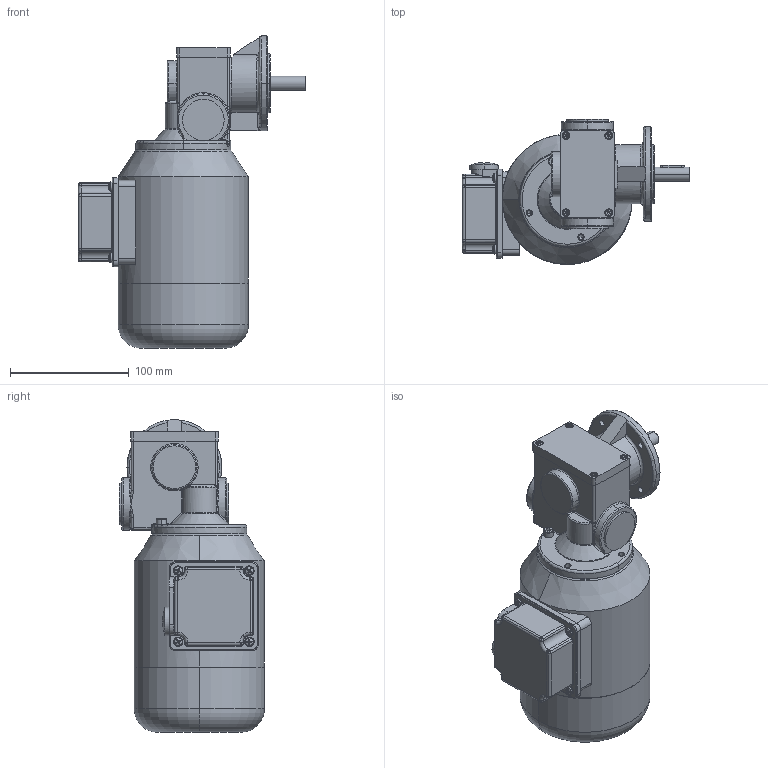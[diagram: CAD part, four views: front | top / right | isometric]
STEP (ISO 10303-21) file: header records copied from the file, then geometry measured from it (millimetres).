
FILE_DESCRIPTION (( 'STEP AP214' ), '1' );
FILE_NAME ('SN6F_120W_2800Upm_Drehstrom-Motor_D.STEP', '2021-08-10T08:49:14', ( '' ), ( '' ), 'SwSTEP 2.0', 'SolidWorks 2019', '' );
FILE_SCHEMA (( 'AUTOMOTIVE_DESIGN' ));
Length unit declared in the file: millimetre
Products named in the file (11): socket head cap screw_din_DIN 912 M5 x 16 --- 16C; 06F-G-002_3D-Export; 06F-D-003_3D-Export; SN6F_120W_2800Upm_Drehstrom-Motor_D; 06-S-002; socket head cap screw_din_DIN 912 M3 x 10 --- 10C; NBR_WDR_12x32x7; SN6F_3D-Export_alte Verschlusskappe 06-S-002; PF_A4x4x20; 06F-W-003_3D-Export; 06-M-066 I 120W_2800Upm
Assembly tree (14 placements, depth 3):
  SN6F_120W_2800Upm_Drehstrom-Motor_D
    SN6F_3D-Export_alte Verschlusskappe 06-S-002
      06F-G-002_3D-Export
      06F-D-003_3D-Export
      06F-W-003_3D-Export
      socket head cap screw_din_DIN 912 M3 x 10 --- 10C  x4
      socket head cap screw_din_DIN 912 M5 x 16 --- 16C
      NBR_WDR_12x32x7
      PF_A4x4x20
      06-S-002  x2
    06-M-066 I 120W_2800Upm
Bounding box: 192.2 x 122.3 x 263.5 mm (x, y, z)
Volume: 2012702.8 mm3; surface area: 173249.7 mm2
Topology: 14 solids, 14 shells, 889 faces, 2185 edges, 1318 vertices
Faces by surface type: cylinder 279, plane 215, torus 162, cone 146, bspline 59, sphere 28
Entity records: 28637 total; most frequent: CARTESIAN_POINT 9248, DIRECTION 4199, ORIENTED_EDGE 3880, EDGE_CURVE 1940, AXIS2_PLACEMENT_3D 1791, VERTEX_POINT 1205, CIRCLE 1036, EDGE_LOOP 863
